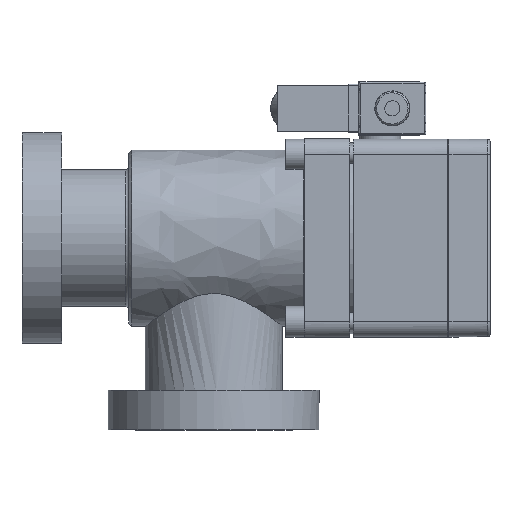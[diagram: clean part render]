
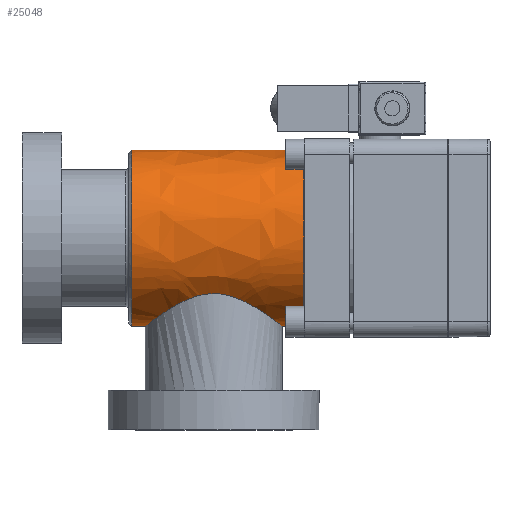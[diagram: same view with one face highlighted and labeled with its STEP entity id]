
A CAD part, top view. The second image highlights one B-rep face of the part: STEP entity #25048.
In plain terms, the highlighted free-form (B-spline) face has degree [2, 1] with [7, 2] control points.
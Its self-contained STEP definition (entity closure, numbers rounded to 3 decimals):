
#23937=CARTESIAN_POINT('V29',(35.4,28.95,
   0.0));
#23938=VERTEX_POINT('V29',#23937);
#23946=CARTESIAN_POINT('E48',(35.4,28.95,
   0.));
#23947=CARTESIAN_POINT('E48',(35.4,28.95,
   50.143));
#23948=CARTESIAN_POINT('E48',(35.4,-14.475,
   25.071));
#23949=CARTESIAN_POINT('E48',(35.4,-57.9,
   0.));
#23950=CARTESIAN_POINT('E48',(35.4,-14.475,
   -25.071));
#23951=CARTESIAN_POINT('E48',(35.4,28.95,
   -50.143));
#23952=CARTESIAN_POINT('E48',(35.4,28.95,
   0.));
#23960=(BOUNDED_CURVE()B_SPLINE_CURVE(2,(#23946,#23947,#23948,
   #23949,#23950,#23951,#23952),.CIRCULAR_ARC.,.T.,.U.)
   B_SPLINE_CURVE_WITH_KNOTS((3,2,2,3),(2.0,43.393,
   84.786,126.179),.UNSPECIFIED.)CURVE()
   GEOMETRIC_REPRESENTATION_ITEM()RATIONAL_B_SPLINE_CURVE((1.0,
   0.5,1.0,0.5,1.0,0.5,1.0)
   )REPRESENTATION_ITEM('E48'));
#23961=EDGE_CURVE('E48',#23938,#23938,#23960,.T.);
#24008=CARTESIAN_POINT('V18',(91.9,28.95,
   0.0));
#24009=VERTEX_POINT('V18',#24008);
#24033=CARTESIAN_POINT('E27',(91.9,28.95,
   0.0));
#24034=CARTESIAN_POINT('E27',(91.9,28.95,
   -50.143));
#24035=CARTESIAN_POINT('E27',(91.9,-14.475,
   -25.071));
#24036=CARTESIAN_POINT('E27',(91.9,-57.9,
   0.));
#24037=CARTESIAN_POINT('E27',(91.9,-14.475,
   25.071));
#24038=CARTESIAN_POINT('E27',(91.9,28.95,
   50.143));
#24039=CARTESIAN_POINT('E27',(91.9,28.95,
   0.0));
#24047=(BOUNDED_CURVE()B_SPLINE_CURVE(2,(#24033,#24034,#24035,
   #24036,#24037,#24038,#24039),.CIRCULAR_ARC.,.T.,.U.)
   B_SPLINE_CURVE_WITH_KNOTS((3,2,2,3),(0.0,355.788,
   711.577,1067.365),.UNSPECIFIED.)CURVE()
   GEOMETRIC_REPRESENTATION_ITEM()RATIONAL_B_SPLINE_CURVE((1.0,
   0.5,1.0,0.5,1.0,0.5,1.0)
   )REPRESENTATION_ITEM('E27'));
#24048=EDGE_CURVE('E27',#24009,#24009,#24047,.T.);
#24951=CARTESIAN_POINT('F21',(34.4,28.95,
   0.0));
#24952=CARTESIAN_POINT('F21',(34.4,28.95,
   50.143));
#24953=CARTESIAN_POINT('F21',(34.4,-14.475,
   25.071));
#24954=CARTESIAN_POINT('F21',(34.4,-57.9,
   0.));
#24955=CARTESIAN_POINT('F21',(34.4,-14.475,
   -25.071));
#24956=CARTESIAN_POINT('F21',(34.4,28.95,
   -50.143));
#24957=CARTESIAN_POINT('F21',(34.4,28.95,
   0.0));
#24958=CARTESIAN_POINT('F21',(91.9,28.95,
   0.0));
#24959=CARTESIAN_POINT('F21',(91.9,28.95,
   50.143));
#24960=CARTESIAN_POINT('F21',(91.9,-14.475,
   25.071));
#24961=CARTESIAN_POINT('F21',(91.9,-57.9,
   0.));
#24962=CARTESIAN_POINT('F21',(91.9,-14.475,
   -25.071));
#24963=CARTESIAN_POINT('F21',(91.9,28.95,
   -50.143));
#24964=CARTESIAN_POINT('F21',(91.9,28.95,
   0.0));
#24972=(BOUNDED_SURFACE()B_SPLINE_SURFACE(2,1,((#24951,#24958),(
   #24952,#24959),(#24953,#24960),(#24954,#24961),(#24955,
   #24962),(#24956,#24963),(#24957,#24964)),.CYLINDRICAL_SURF.,
   .T.,.F.,.U.)B_SPLINE_SURFACE_WITH_KNOTS((3,2,2,3),(2,2),(0.0,
   1.744,3.488,5.232),(0.0,1.0),
   .UNSPECIFIED.)GEOMETRIC_REPRESENTATION_ITEM()
   RATIONAL_B_SPLINE_SURFACE(((1.0,1.0),(0.5,
   0.5),(1.0,1.0),(0.5,
   0.5),(1.0,1.0),(0.5,
   0.5),(1.0,1.0)))REPRESENTATION_ITEM('F21')SURFACE(
   ));
#24973=ORIENTED_EDGE('E48',*,*,#23961,.F.);
#24974=CARTESIAN_POINT('V24',(42.4,28.95,
   0.0));
#24975=VERTEX_POINT('V24',#24974);
#24976=CARTESIAN_POINT('E36',(42.4,28.95,
   0.0));
#24977=CARTESIAN_POINT('E36',(35.4,28.95,
   0.0));
#24978=B_SPLINE_CURVE_WITH_KNOTS('E36',1,(#24976,#24977),
   .POLYLINE_FORM.,.F.,.U.,(2,2),(0.861,
   0.983),.UNSPECIFIED.);
#24979=EDGE_CURVE('E36',#24975,#23938,#24978,.T.);
#24980=ORIENTED_EDGE('E36',*,*,#24979,.F.);
#24981=CARTESIAN_POINT('V23',(62.4,20.931,
   20.0));
#24982=VERTEX_POINT('V23',#24981);
#24983=CARTESIAN_POINT('E35',(62.4,20.931,
   20.0));
#24984=CARTESIAN_POINT('E35',(61.601,20.931,
   20.0));
#24985=CARTESIAN_POINT('E35',(60.808,20.977,
   19.952));
#24986=CARTESIAN_POINT('E35',(57.332,21.369,
   19.536));
#24987=CARTESIAN_POINT('E35',(54.878,22.158,
   18.689));
#24988=CARTESIAN_POINT('E35',(50.532,23.977,
   16.297));
#24989=CARTESIAN_POINT('E35',(48.459,25.111,
   14.603));
#24990=CARTESIAN_POINT('E35',(45.114,27.115,
   10.395));
#24991=CARTESIAN_POINT('E35',(43.715,28.052,
   7.802));
#24992=CARTESIAN_POINT('E35',(42.592,28.816,
   3.188));
#24993=CARTESIAN_POINT('E35',(42.4,28.95,
   1.603));
#24994=CARTESIAN_POINT('E35',(42.4,28.95,
   0.0));
#24995=B_SPLINE_CURVE_WITH_KNOTS('E35',3,(#24983,#24984,#24985,
   #24986,#24987,#24988,#24989,#24990,#24991,#24992,#24993,#24994),
   .UNSPECIFIED.,.F.,.U.,(4,2,2,2,2,4),(0.0,0.076,
   0.337,0.61,0.87,1.0),
   .UNSPECIFIED.);
#24996=EDGE_CURVE('E35',#24982,#24975,#24995,.T.);
#24997=ORIENTED_EDGE('E35',*,*,#24996,.F.);
#24998=CARTESIAN_POINT('V25',(82.4,28.95,
   0.0));
#24999=VERTEX_POINT('V25',#24998);
#25000=CARTESIAN_POINT('E39',(82.4,28.95,
   0.0));
#25001=CARTESIAN_POINT('E39',(82.4,28.95,
   1.628));
#25002=CARTESIAN_POINT('E39',(82.202,28.812,
   3.236));
#25003=CARTESIAN_POINT('E39',(81.455,28.304,
   6.261));
#25004=CARTESIAN_POINT('E39',(80.934,27.953,
   7.658));
#25005=CARTESIAN_POINT('E39',(78.827,26.585,
   11.857));
#25006=CARTESIAN_POINT('E39',(76.797,25.33,
   14.167));
#25007=CARTESIAN_POINT('E39',(72.153,22.998,
   17.721));
#25008=CARTESIAN_POINT('E39',(69.317,21.837,
   19.025));
#25009=CARTESIAN_POINT('E39',(64.987,21.054,
   19.874));
#25010=CARTESIAN_POINT('E39',(63.703,20.931,
   20.0));
#25011=CARTESIAN_POINT('E39',(62.4,20.931,
   20.0));
#25012=B_SPLINE_CURVE_WITH_KNOTS('E39',3,(#25000,#25001,#25002,
   #25003,#25004,#25005,#25006,#25007,#25008,#25009,#25010,#25011),
   .UNSPECIFIED.,.F.,.U.,(4,2,2,2,2,4),(0.0,0.14,
   0.272,0.561,0.872,1.0),
   .UNSPECIFIED.);
#25013=EDGE_CURVE('E39',#24999,#24982,#25012,.T.);
#25014=ORIENTED_EDGE('E39',*,*,#25013,.F.);
#25015=CARTESIAN_POINT('E38',(91.9,28.95,
   0.0));
#25016=CARTESIAN_POINT('E38',(82.4,28.95,
   0.0));
#25017=B_SPLINE_CURVE_WITH_KNOTS('E38',1,(#25015,#25016),
   .POLYLINE_FORM.,.F.,.U.,(2,2),(0.0,0.165),
   .UNSPECIFIED.);
#25018=EDGE_CURVE('E38',#24009,#24999,#25017,.T.);
#25019=ORIENTED_EDGE('E38',*,*,#25018,.F.);
#25020=ORIENTED_EDGE('F16',*,*,#24048,.F.);
#25021=ORIENTED_EDGE('E38',*,*,#25018,.T.);
#25022=CARTESIAN_POINT('E37',(42.4,28.95,
   0.0));
#25023=CARTESIAN_POINT('E37',(42.4,28.95,
   -1.87));
#25024=CARTESIAN_POINT('E37',(42.661,28.768,
   -3.714));
#25025=CARTESIAN_POINT('E37',(43.497,28.202,
   -6.643));
#25026=CARTESIAN_POINT('E37',(43.926,27.915,
   -7.752));
#25027=CARTESIAN_POINT('E37',(45.905,26.626,
   -11.788));
#25028=CARTESIAN_POINT('E37',(47.987,25.336,
   -14.162));
#25029=CARTESIAN_POINT('E37',(52.779,22.935,
   -17.813));
#25030=CARTESIAN_POINT('E37',(55.755,21.727,
   -19.147));
#25031=CARTESIAN_POINT('E37',(60.418,20.977,
   -19.954));
#25032=CARTESIAN_POINT('E37',(61.865,20.887,
   -20.047));
#25033=CARTESIAN_POINT('E37',(66.289,21.083,
   -19.841));
#25034=CARTESIAN_POINT('E37',(68.924,21.831,
   -19.062));
#25035=CARTESIAN_POINT('E37',(74.121,23.828,
   -16.547));
#25036=CARTESIAN_POINT('E37',(76.916,25.419,
   -14.257));
#25037=CARTESIAN_POINT('E37',(80.206,27.464,
   -9.36));
#25038=CARTESIAN_POINT('E37',(81.231,28.151,
   -7.205));
#25039=CARTESIAN_POINT('E37',(82.208,28.816,
   -3.188));
#25040=CARTESIAN_POINT('E37',(82.4,28.95,
   -1.603));
#25041=CARTESIAN_POINT('E37',(82.4,28.95,
   0.0));
#25042=B_SPLINE_CURVE_WITH_KNOTS('E37',3,(#25022,#25023,#25024,
   #25025,#25026,#25027,#25028,#25029,#25030,#25031,#25032,#25033,
   #25034,#25035,#25036,#25037,#25038,#25039,#25040,#25041),
   .UNSPECIFIED.,.F.,.U.,(4,2,2,2,2,2,2,2,2,4),(0.0,
   0.077,0.128,0.27,
   0.425,0.493,0.631,
   0.821,0.932,1.0),.UNSPECIFIED.);
#25043=EDGE_CURVE('E37',#24975,#24999,#25042,.T.);
#25044=ORIENTED_EDGE('E37',*,*,#25043,.F.);
#25045=ORIENTED_EDGE('E36',*,*,#24979,.T.);
#25046=EDGE_LOOP('F21',(#24973,#24980,#24997,#25014,#25019,#25020,
   #25021,#25044,#25045));
#25047=FACE_OUTER_BOUND('F21',#25046,.F.);
#25048=ADVANCED_FACE('F21',(#25047),#24972,.T.);
